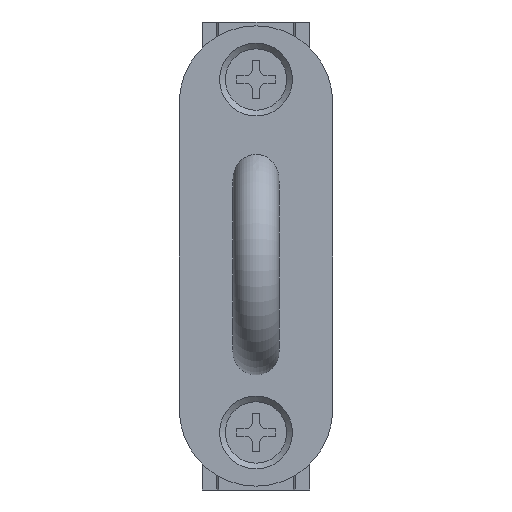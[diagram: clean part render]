
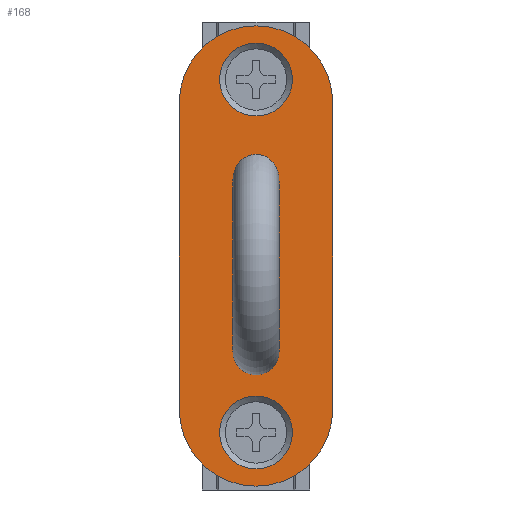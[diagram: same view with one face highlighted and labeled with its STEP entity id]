
A CAD part, front view. The second image highlights one B-rep face of the part: STEP entity #168.
In plain terms, the highlighted planar face has unit normal (0, -1, 0) as drawn and (0, 0, -1) by its records, which use the part's own axes.
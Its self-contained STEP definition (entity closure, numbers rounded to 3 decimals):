
#168=ADVANCED_FACE('',(#315,#316,#317,#318),#319,.F.);
#315=FACE_BOUND('',#479,.T.);
#316=FACE_BOUND('',#480,.T.);
#317=FACE_OUTER_BOUND('',#481,.T.);
#318=FACE_BOUND('',#482,.T.);
#319=PLANE('',#483);
#479=EDGE_LOOP('',(#642));
#480=EDGE_LOOP('',(#643));
#481=EDGE_LOOP('',(#644,#645,#646,#647));
#482=EDGE_LOOP('',(#648));
#483=AXIS2_PLACEMENT_3D('',#649,#650,#651);
#642=ORIENTED_EDGE('',*,*,#1007,.F.);
#643=ORIENTED_EDGE('',*,*,#1015,.F.);
#644=ORIENTED_EDGE('',*,*,#1016,.F.);
#645=ORIENTED_EDGE('',*,*,#1017,.F.);
#646=ORIENTED_EDGE('',*,*,#1018,.F.);
#647=ORIENTED_EDGE('',*,*,#1019,.F.);
#648=ORIENTED_EDGE('',*,*,#1020,.T.);
#649=CARTESIAN_POINT('',(10.0,10.0,23.));
#650=DIRECTION('',(0.0,0.0,1.0));
#651=DIRECTION('',(1.0,0.0,0.0));
#1007=EDGE_CURVE('',#1159,#1159,#1160,.T.);
#1015=EDGE_CURVE('',#1172,#1172,#1173,.T.);
#1016=EDGE_CURVE('',#1174,#1175,#1176,.T.);
#1017=EDGE_CURVE('',#1177,#1174,#1178,.T.);
#1018=EDGE_CURVE('',#1179,#1177,#1180,.T.);
#1019=EDGE_CURVE('',#1175,#1179,#1181,.T.);
#1020=EDGE_CURVE('',#1182,#1182,#1183,.T.);
#1159=VERTEX_POINT('',#1382);
#1160=CIRCLE('',#1383,4.75);
#1172=VERTEX_POINT('',#1460);
#1173=CIRCLE('',#1461,4.75);
#1174=VERTEX_POINT('',#1462);
#1175=VERTEX_POINT('',#1463);
#1176=CIRCLE('',#1464,10.0);
#1177=VERTEX_POINT('',#1465);
#1178=LINE('',#1466,#1467);
#1179=VERTEX_POINT('',#1468);
#1180=CIRCLE('',#1469,10.0);
#1181=LINE('',#1470,#1471);
#1182=VERTEX_POINT('',#1472);
#1183=CIRCLE('',#1473,3.0);
#1382=CARTESIAN_POINT('',(53.0,5.25,23.));
#1383=AXIS2_PLACEMENT_3D('',#1735,#1736,#1737);
#1460=CARTESIAN_POINT('',(7.0,5.25,23.));
#1461=AXIS2_PLACEMENT_3D('',#1747,#1748,#1749);
#1462=CARTESIAN_POINT('',(10.0,20.0,23.));
#1463=CARTESIAN_POINT('',(10.0,0.0,23.));
#1464=AXIS2_PLACEMENT_3D('',#1750,#1751,#1752);
#1465=CARTESIAN_POINT('',(50.0,20.0,23.));
#1466=CARTESIAN_POINT('',(50.0,20.0,23.));
#1467=VECTOR('',#1753,1.0);
#1468=CARTESIAN_POINT('',(50.0,0.0,23.));
#1469=AXIS2_PLACEMENT_3D('',#1754,#1755,#1756);
#1470=CARTESIAN_POINT('',(10.0,0.0,23.));
#1471=VECTOR('',#1757,1.0);
#1472=CARTESIAN_POINT('',(45.5,10.0,23.0));
#1473=AXIS2_PLACEMENT_3D('',#1758,#1759,#1760);
#1735=CARTESIAN_POINT('',(53.0,10.0,23.));
#1736=DIRECTION('',(0.0,0.,-1.0));
#1737=DIRECTION('',(0.0,-1.0,0.));
#1747=CARTESIAN_POINT('',(7.0,10.0,23.));
#1748=DIRECTION('',(0.0,0.,-1.0));
#1749=DIRECTION('',(0.0,-1.0,0.));
#1750=CARTESIAN_POINT('',(10.0,10.0,23.));
#1751=DIRECTION('',(0.0,0.0,1.0));
#1752=DIRECTION('',(1.0,0.0,0.0));
#1753=DIRECTION('',(-1.0,0.0,0.0));
#1754=CARTESIAN_POINT('',(50.0,10.0,23.));
#1755=DIRECTION('',(0.0,0.0,1.0));
#1756=DIRECTION('',(1.0,0.0,0.0));
#1757=DIRECTION('',(1.0,0.0,0.0));
#1758=CARTESIAN_POINT('',(42.5,10.0,23.0));
#1759=DIRECTION('',(0.0,0.0,1.0));
#1760=DIRECTION('',(1.0,0.0,0.0));
